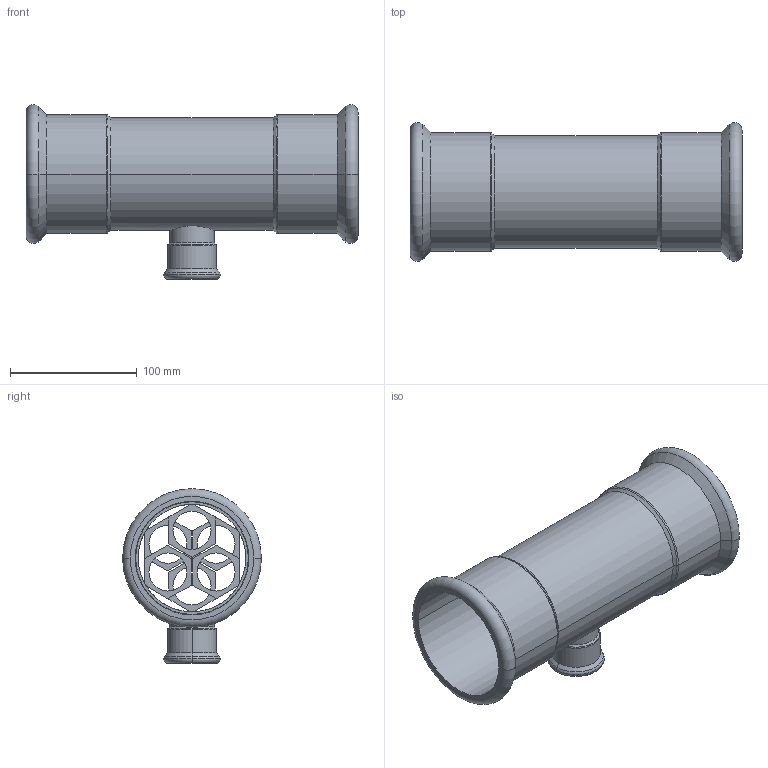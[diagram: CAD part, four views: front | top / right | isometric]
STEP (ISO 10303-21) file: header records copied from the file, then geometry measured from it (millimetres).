
FILE_DESCRIPTION(('OneSpaceDesigner STEP Export'),'2;1');
FILE_NAME('R2715 89x35x89.stp','2010-06-10T 9:31:14',(''),(''),'OneSpace Designer STEP processor for AP214 (Solid Model)','OneSpace Modeling 15.00A 14-Mar-2007 (C) CoCreate Software GmbH','');
FILE_SCHEMA(('AUTOMOTIVE_DESIGN { 1 0 10303 214 1 1 1 1 }'));
Length unit declared in the file: millimetre
Products named in the file (2): R2715_89x35x89
Assembly tree (1 placements, depth 2):
  R2715_89x35x89
    R2715_89x35x89
Bounding box: 262 x 109.48 x 137.74 mm (x, y, z)
Volume: 227400.9 mm3; surface area: 178174.4 mm2
Topology: 1 solids, 1 shells, 170 faces, 423 edges, 272 vertices
Faces by surface type: plane 90, cylinder 54, torus 14, cone 12
Entity records: 5642 total; most frequent: CARTESIAN_POINT 1917, ORIENTED_EDGE 846, DIRECTION 643, EDGE_CURVE 423, VERTEX_POINT 272, VECTOR 263, LINE 263, EDGE_LOOP 207
